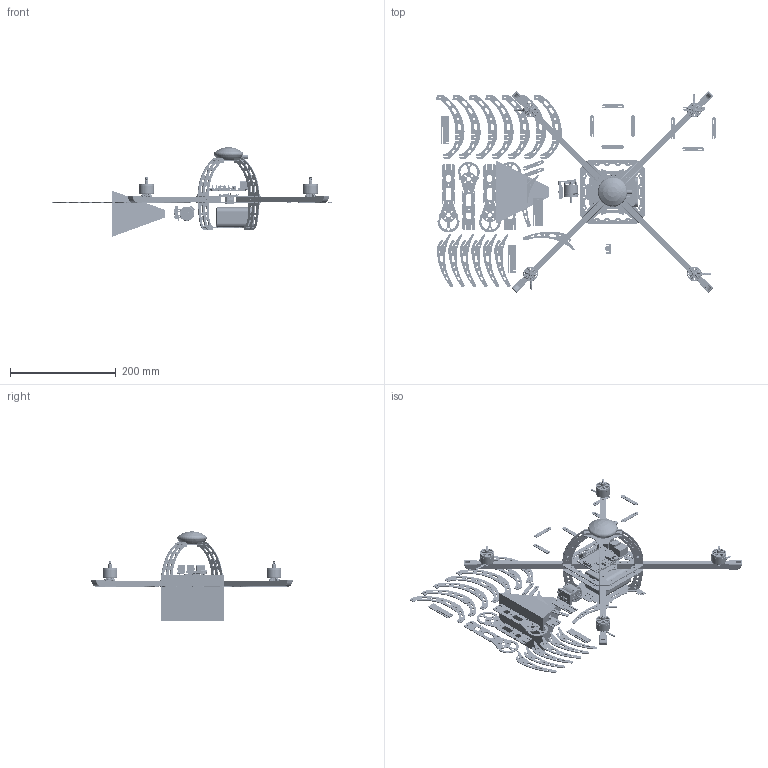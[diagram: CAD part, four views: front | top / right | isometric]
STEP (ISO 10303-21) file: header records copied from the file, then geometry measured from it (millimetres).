
FILE_DESCRIPTION(('STEP AP214'),'1');
FILE_NAME('varioframe assy_milestone2.stp','2018-10-19T07:02:11',(' '),(' '),'Spatial InterOp 3D',' ',' ');
FILE_SCHEMA(('AUTOMOTIVE_DESIGN { 1 0 10303 214 1 1 1 1 }'));
Length unit declared in the file: metre
Products named in the file (135): varioframe assy_milestone2; varioframe assy_milestone; boom; boom Geometry; endcap; motor v4; Component1; Component2; Component3; Component4; Component5; Component6; Component7; Component8; Component9; Component10; Component11; Component12; Component13; Component14; Component15; Component16; Component17; Component18; Component19; Component20; Component21; Component22; Component23; Component24; Component25; Component26; Component27; Component28; Component29; Component30; Component31; Component32; Component33; tube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
Assembly tree (249 placements, depth 6):
  varioframe assy_milestone2
    varioframe assy_milestone
    booms
      Pattern
        boom
          boom Geometry
          endcap
          motor v4
            Component1
            Component2
            Component3
            Component4
            Component5
            Component6
            Component7
            Component8
            Component9
            Component10
            Component11
            Component12
            Component13
            Component14
            Component15
            Component16
            Component17
            Component18
            Component19
            Component20
            Component21
            Component22
            Component23
            Component24
            Component25
            Component26
            Component27
            Component28
            Component29
            Component30
            Component31
            Component32
            Component33
          tube
          vertical frame
        boom
          boom Geometry
          endcap
          motor v4
            Component1
            Component2
            Component3
            Component4
            Component5
            Component6
            Component7
            Component8
            Component9
            Component10
            Component11
            Component12
            Component13
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Bounding box: 529.33 x 381.71 x 169.68 mm (x, y, z)
Volume: 1258398.6 mm3; surface area: 1071354.6 mm2
Topology: 339 solids, 339 shells, 24411 faces, 66439 edges, 43261 vertices
Faces by surface type: plane 12280, cylinder 10282, torus 1054, bspline 412, cone 353, sphere 28, revolution 2
Entity records: 779213 total; most frequent: CARTESIAN_POINT 159595, DIRECTION 99144, ORIENTED_EDGE 96870, EDGE_CURVE 48435, AXIS2_PLACEMENT_3D 33970, VERTEX_POINT 31725, LINE 31202, VECTOR 31202
